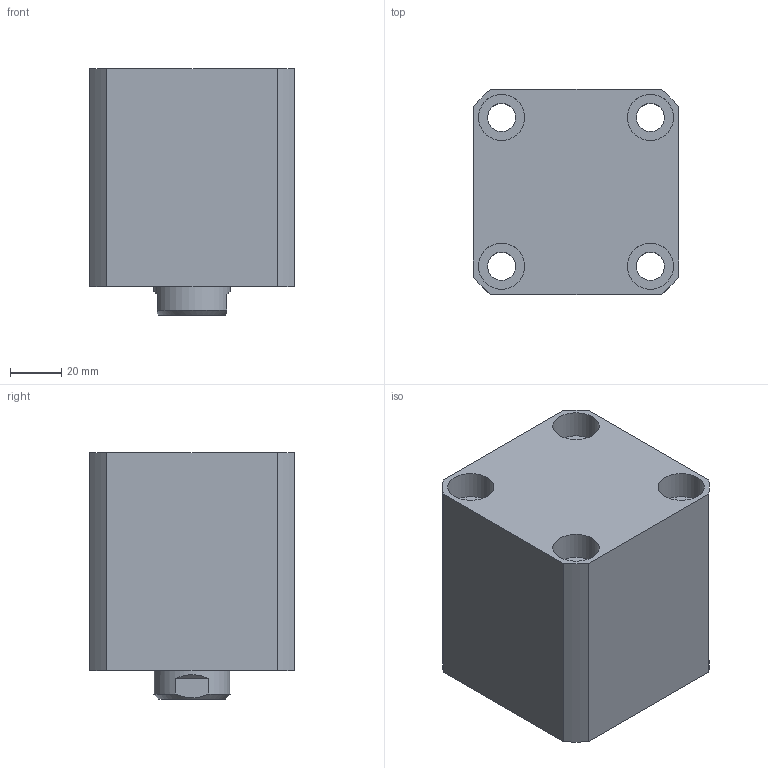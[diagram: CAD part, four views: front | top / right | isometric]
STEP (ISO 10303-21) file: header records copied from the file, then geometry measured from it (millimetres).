
FILE_DESCRIPTION(/* description */ (''),/* implementation_level */ '2;1');
FILE_NAME(/* name */ 'CHTB-SDMA50-25N.stp',/* time_stamp */ '2022-04-29T18:18:05+08:00',/* author */ (''),/* organization */ (''),/* preprocessor_version */ 'ST-DEVELOPER v16.7',/* originating_system */ 'SIEMENS PLM Software NX 12.0',/* authorisation */ '');
FILE_SCHEMA (('AUTOMOTIVE_DESIGN { 1 0 10303 214 3 1 1 1 }'));
Length unit declared in the file: millimetre
Products named in the file (1): CHTB-SDMA50-25N
Bounding box: 80 x 80 x 96 mm (x, y, z)
Volume: 451986.6 mm3; surface area: 96878.4 mm2
Topology: 5 solids, 5 shells, 507 faces, 1358 edges, 912 vertices
Faces by surface type: plane 317, extrusion 89, cylinder 55, bspline 20, cone 15, torus 11
Full cylindrical faces by diameter (mm): 4 x6, 5 x2, 9 x2, 11 x4, 18 x8, 19 x1, 30 x2, 39 x1, 44 x2, 46 x1, 50 x5, 55 x8, 59 x1
Entity records: 26731 total; most frequent: CARTESIAN_POINT 12504, ORIENTED_EDGE 2556, DIRECTION 1953, EDGE_CURVE 1278, VECTOR 943, VERTEX_POINT 899, LINE 854, EDGE_LOOP 622
